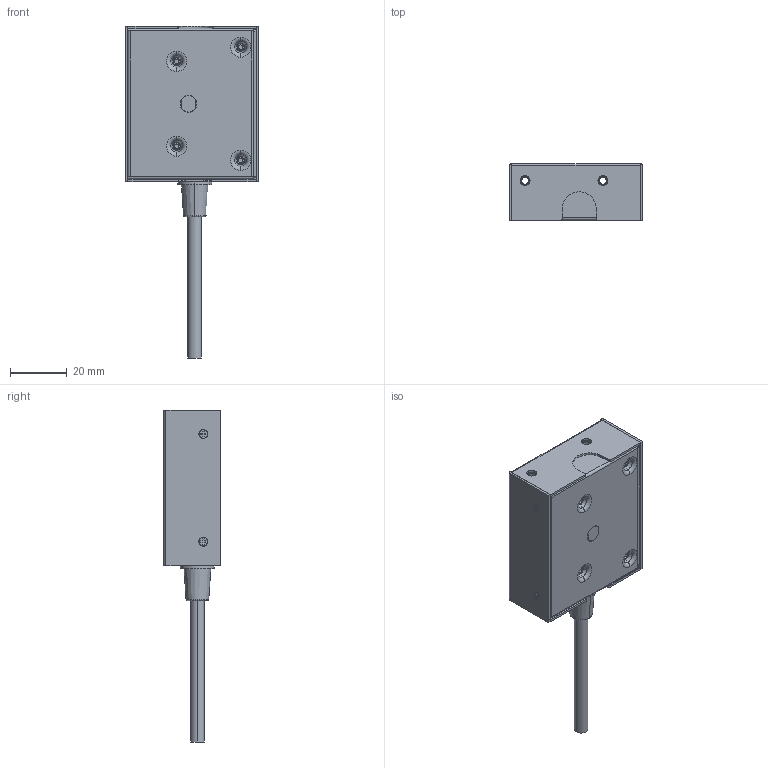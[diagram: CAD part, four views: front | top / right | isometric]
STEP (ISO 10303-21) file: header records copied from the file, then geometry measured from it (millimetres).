
FILE_DESCRIPTION((''),'2;1');
FILE_NAME('B04020-A01ASSY_ASM','2013-08-06T',('skomi0303'),(''),'PRO/ENGINEER BY PARAMETRIC TECHNOLOGY CORPORATION, 2005290','PRO/ENGINEER BY PARAMETRIC TECHNOLOGY CORPORATION, 2005290','');
FILE_SCHEMA(('CONFIG_CONTROL_DESIGN'));
Length unit declared in the file: millimetre
Products named in the file (7): F-70_MAIN_CHASSIS; B96009-05; B96009-03A; B96009-04; NEJI_M2_SARA; BUSH; B04020-A01ASSY_ASM
Assembly tree (9 placements, depth 2):
  B04020-A01ASSY_ASM
    F-70_MAIN_CHASSIS
    B96009-05
    B96009-03A
    B96009-04
    NEJI_M2_SARA  x4
    BUSH
Bounding box: 47 x 20 x 117.35 mm (x, y, z)
Volume: 11876.7 mm3; surface area: 26439.4 mm2
Topology: 9 solids, 9 shells, 470 faces, 1141 edges, 726 vertices
Faces by surface type: plane 215, cylinder 157, cone 54, torus 42, bspline 2
Entity records: 14124 total; most frequent: CARTESIAN_POINT 4120, DIRECTION 2199, ORIENTED_EDGE 1934, EDGE_CURVE 967, AXIS2_PLACEMENT_3D 845, VERTEX_POINT 612, VECTOR 509, LINE 509
